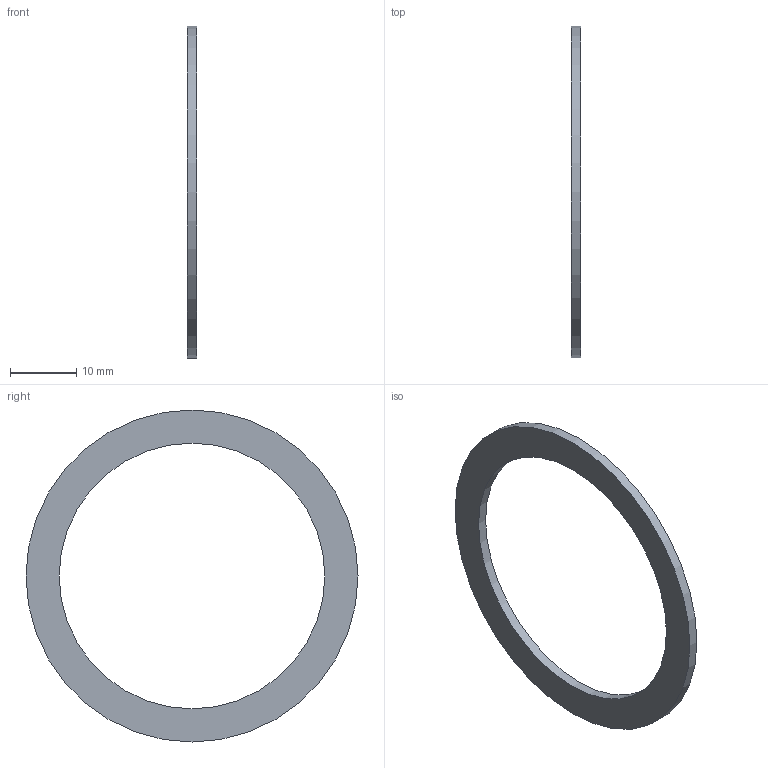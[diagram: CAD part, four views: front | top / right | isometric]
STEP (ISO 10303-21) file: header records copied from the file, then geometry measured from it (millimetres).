
FILE_DESCRIPTION( ( 'STEP AP214' ), '1' );
FILE_NAME( 'p:/temp/worker_3/temp/app_85_02018121421024727715771192d056f_000000_00_00_000000/format_1/6060-4050.stp', '2018-12-14T20:02:51', ( '' ), ( '' ), ' ', 'PARTsolutions', ' ' );
FILE_SCHEMA( ( 'AUTOMOTIVE_DESIGN { 1 0 10303 214 1 1 1 1 }' ) );
Length unit declared in the file: millimetre
Products named in the file (1): _6060-4050
Bounding box: 1.5 x 50 x 50 mm (x, y, z)
Volume: 1060.3 mm3; surface area: 1837.8 mm2
Topology: 1 solids, 1 shells, 4 faces, 6 edges, 4 vertices
Faces by surface type: plane 2, cylinder 2
Full cylindrical faces by diameter (mm): 40 x1, 50 x1
Entity records: 136 total; most frequent: DIRECTION 18, CARTESIAN_POINT 13, AXIS2_PLACEMENT_3D 9, EDGE_LOOP 8, ORIENTED_EDGE 8, FACE_OUTER_BOUND 6, STYLED_ITEM 4, PRESENTATION_STYLE_ASSIGNMENT 4
